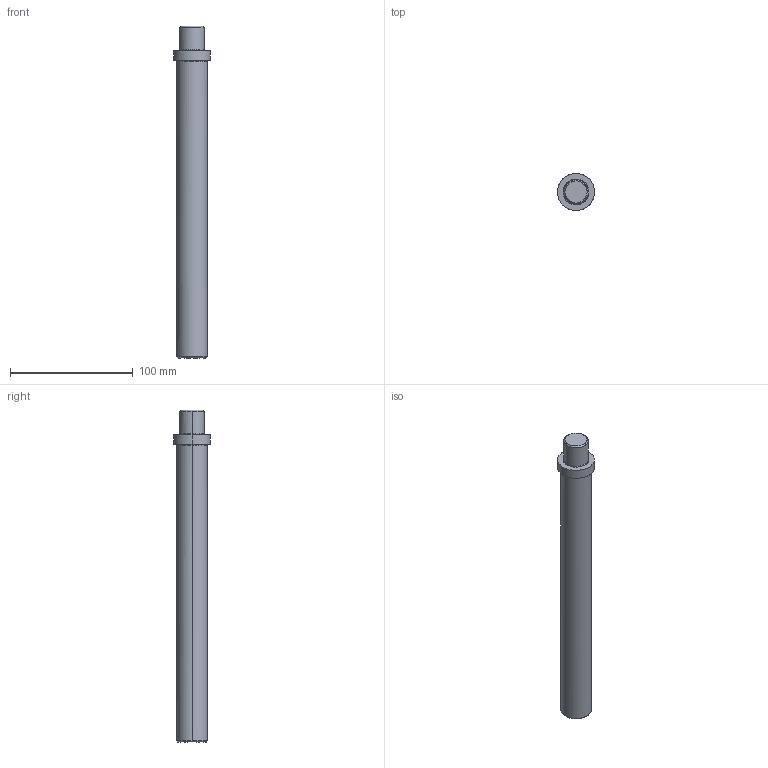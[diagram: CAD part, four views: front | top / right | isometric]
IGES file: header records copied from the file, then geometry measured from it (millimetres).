
Global section: file name: E:\UnigraphicsGraphicData\MISUMI_PRESS-PARTS\IGES\3d_lcp25-250-20_06987_r00.igs; native system: NX V5.0; preprocessor: UGS NX IGES V5.0; author: MISUMI; date: 20110105.161155; units: millimetre
Bounding box: 30 x 30 x 270 mm (x, y, z)
Surface area: 22316.7 mm2 (no closed solid volume)
Topology: 0 solids, 0 shells, 18 faces, 128 edges, 128 vertices
Faces by surface type: bspline 18
